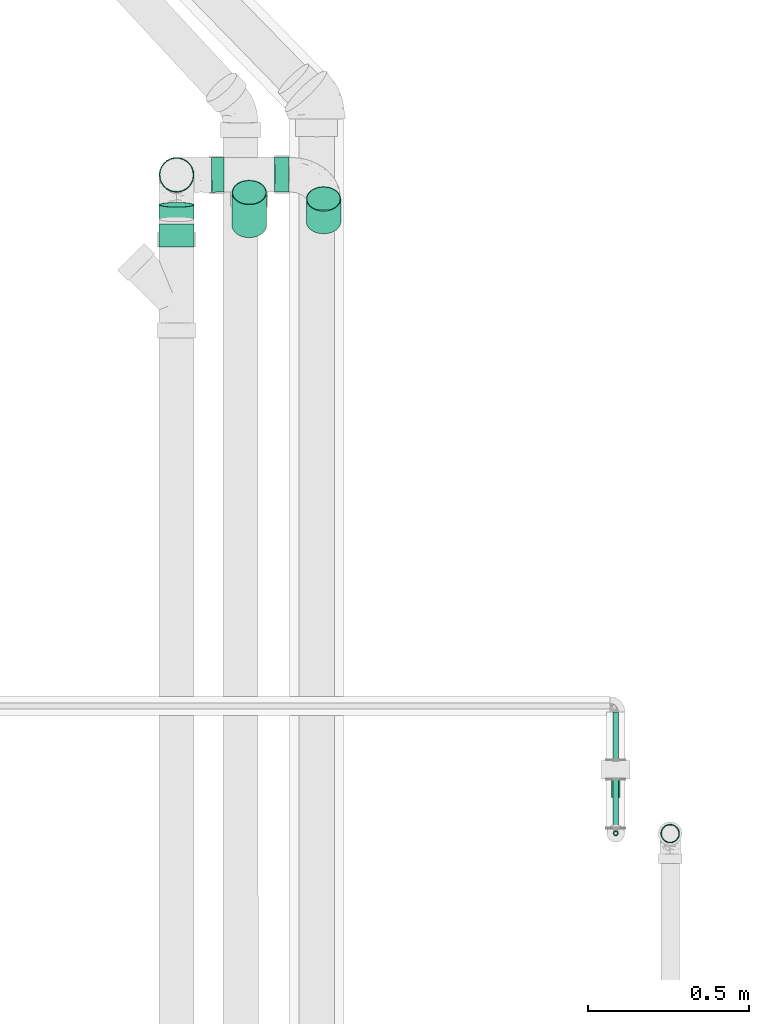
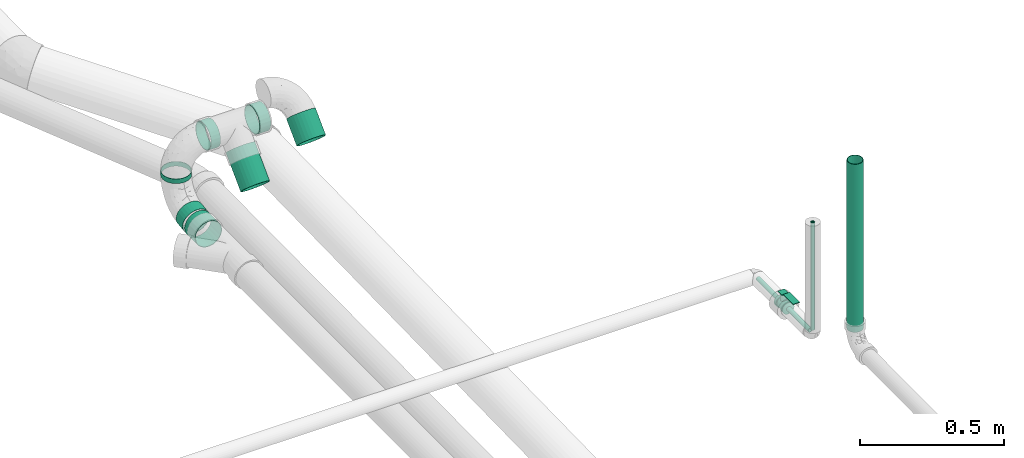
# One storey, part 35 of 78: 11 flow segments, 1 flow controller.
"""IFC2X3 building model written with IfcOpenShell, lengths in millimetres."""

import ifcopenshell
import ifcopenshell.guid

model = None  # the IFC model being written
_history = None  # IfcOwnerHistory: only IFC2X3 demands one
_inside = {}  # id of a spatial element -> (the spatial element, [elements in it])
_under = {}  # id of a project, library or spatial element -> (it, [spatial elements below it])
_declared = {}  # id of a project -> (the project, [libraries it declares])
_typed = {}  # id of a type object -> (the type object, [elements of that type])
_made_of = {}  # id of a material, layer set ... -> (it, [elements and type objects made of it])


def new_model(schema):
    """Start an empty IFC model of exactly this schema.

    Asked for "IFC4X3", IfcOpenShell would pick the latest addendum, in which some entities
    have other attributes; the version numbers below select the first issue.
    IFC2X3 requires an IfcOwnerHistory on every rooted entity: one is made here for all.
    """
    global model, _history
    if schema == "IFC4X3":
        model = ifcopenshell.file(schema_version=(4, 3, 0, 0))
    else:
        model = ifcopenshell.file(schema=schema)
    _inside.clear()
    _under.clear()
    _declared.clear()
    _typed.clear()
    _made_of.clear()
    _history = None
    if model.schema == "IFC2X3":
        org = make("IfcOrganization", Name="unknown")
        user = make(
            "IfcPersonAndOrganization",
            ThePerson=make("IfcPerson", FamilyName="unknown"),
            TheOrganization=org,
        )
        app = make(
            "IfcApplication",
            ApplicationDeveloper=org,
            Version="unknown",
            ApplicationFullName="unknown",
            ApplicationIdentifier="unknown",
        )
        _history = make(
            "IfcOwnerHistory",
            OwningUser=user,
            OwningApplication=app,
            ChangeAction="ADDED",
            CreationDate=0,
        )
    return model


def make(cls, **values):
    """One entity of the class cls with the attributes given. An attribute that is None is left unset."""
    return model.create_entity(
        cls, **{name: value for name, value in values.items() if value is not None}
    )


def entity(cls, *values):
    """Any entity or typed value of the class cls, its attributes in the order of the schema. None: left unset."""
    e = model.create_entity(cls)
    for i, value in enumerate(values):
        if value is not None:
            e[i] = value
    return e


def rooted(cls, **values):
    """An entity with a GlobalId (a new one), such as an element, a storey or a relation."""
    return make(cls, GlobalId=ifcopenshell.guid.new(), OwnerHistory=_history, **values)


def si_unit(unit_type, name, prefix=None):
    """IfcSIUnit, for example si_unit("LENGTHUNIT", "METRE", prefix="MILLI")."""
    return make("IfcSIUnit", UnitType=unit_type, Prefix=prefix, Name=name)


def converted_unit(unit_type, name, factor, base, dimensions=None, offset=None):
    """IfcConversionBasedUnit, such as the inch: factor (a typed value) times the base unit."""
    return make(
        "IfcConversionBasedUnit"
        if offset is None
        else "IfcConversionBasedUnitWithOffset",
        ConversionOffset=offset,
        Dimensions=None
        if dimensions is None
        else entity("IfcDimensionalExponents", *dimensions),
        UnitType=unit_type,
        Name=name,
        ConversionFactor=make(
            "IfcMeasureWithUnit", ValueComponent=factor, UnitComponent=base
        ),
    )


def derived_unit(unit_type, elements):
    """IfcDerivedUnit: a product of units, each with its exponent."""
    return make(
        "IfcDerivedUnit",
        Elements=[
            make("IfcDerivedUnitElement", Unit=unit, Exponent=power)
            for unit, power in elements
        ],
        UnitType=unit_type,
    )


def assignment(units):
    """IfcUnitAssignment: the units of a project."""
    return None if units is None else make("IfcUnitAssignment", Units=units)


def point(xyz):
    """IfcCartesianPoint."""
    return None if xyz is None else make("IfcCartesianPoint", Coordinates=xyz)


def direction(xyz):
    """IfcDirection."""
    return None if xyz is None else make("IfcDirection", DirectionRatios=xyz)


def frame(location, z_axis=None, x_axis=None):
    """IfcAxis2Placement3D, a coordinate frame: its origin and axes. An axis left out is left unset."""
    return make(
        "IfcAxis2Placement3D",
        Location=point(location),
        Axis=direction(z_axis),
        RefDirection=direction(x_axis),
    )


def frame_2d(location, x_axis=None):
    """IfcAxis2Placement2D, a coordinate frame in the plane: its origin and x axis."""
    return make(
        "IfcAxis2Placement2D", Location=point(location), RefDirection=direction(x_axis)
    )


def origin_with_axes():
    """The frame at (0, 0, 0) with the z axis (0, 0, 1) and the x axis (1, 0, 0) written out."""
    return frame((0.0, 0.0, 0.0), z_axis=(0.0, 0.0, 1.0), x_axis=(1.0, 0.0, 0.0))


def origin_2d_with_axis():
    """The frame at (0, 0) in the plane with the x axis (1, 0) written out."""
    return frame_2d((0.0, 0.0), x_axis=(1.0, 0.0))


def place(relative_to, where):
    """IfcLocalPlacement: puts the frame where relative to a parent placement (None: the world)."""
    return make(
        "IfcLocalPlacement", PlacementRelTo=relative_to, RelativePlacement=where
    )


def context(
    kind, dimensions, precision=None, world=None, true_north=None, identifier=None
):
    """IfcGeometricRepresentationContext, for example the 3D "Model" context."""
    return make(
        "IfcGeometricRepresentationContext",
        ContextIdentifier=identifier,
        ContextType=kind,
        CoordinateSpaceDimension=dimensions,
        Precision=precision,
        WorldCoordinateSystem=world,
        TrueNorth=true_north,
    )


def subcontext(parent, identifier, kind, view, scale=None):
    """IfcGeometricRepresentationSubContext, for example "Body" below "Model"."""
    return make(
        "IfcGeometricRepresentationSubContext",
        ContextIdentifier=identifier,
        ContextType=kind,
        ParentContext=parent,
        TargetScale=scale,
        TargetView=view,
    )


def project(units=None, contexts=None):
    """IfcProject with its units and contexts."""
    return rooted(
        "IfcProject",
        Name="project",
        RepresentationContexts=contexts,
        UnitsInContext=assignment(units),
    )


def spatial(cls, under=None, at=None, **own):
    """A site, building, storey or space (cls), placed at a placement, below another one or the project."""
    s = rooted(cls, ObjectPlacement=at, **own)
    if under is not None:
        _under.setdefault(under.id(), (under, []))[1].append(s)
    return s


def profile(cls, at=None, kind="AREA", **sizes):
    """A parametric profile (cls). Its sizes go by their IFC names, for example OverallWidth=200.0."""
    return make(cls, ProfileType=kind, Position=at, **sizes)


def hollow_circle(**sizes):
    """IfcCircleHollowProfileDef."""
    return profile("IfcCircleHollowProfileDef", **sizes)


def extrude(swept, where, along, depth):
    """IfcExtrudedAreaSolid: the profile swept, set in the frame where, extruded along a direction by depth."""
    return make(
        "IfcExtrudedAreaSolid",
        SweptArea=swept,
        Position=where,
        ExtrudedDirection=direction(along),
        Depth=depth,
    )


def faces_of(points, faces, orient=None, outer=None):
    """IfcFace entities. A face is a list of loops; a loop is a list of indices into points, from 0.

    orient and outer hold one flag for each loop. By default every Orientation is true, the
    first loop of a face is its IfcFaceOuterBound and the others are IfcFaceBound.
    """
    made = []
    for i, loops in enumerate(faces):
        bounds = []
        for j, loop in enumerate(loops):
            is_outer = j == 0 if outer is None else outer[i][j]
            bounds.append(
                make(
                    "IfcFaceOuterBound" if is_outer else "IfcFaceBound",
                    Bound=make("IfcPolyLoop", Polygon=[points[k] for k in loop]),
                    Orientation=True if orient is None else orient[i][j],
                )
            )
        made.append(make("IfcFace", Bounds=bounds))
    return made


def open_shell(faces, orient=None, outer=None):
    """The faces of one IfcOpenShell. surface_model builds it on its shared points."""
    return ("IfcOpenShell", faces, orient, outer)


def surface_model(cls, points, shells):
    """IfcFaceBasedSurfaceModel or IfcShellBasedSurfaceModel (cls): surfaces that need not close."""
    shared = [point(p) for p in points]
    made = [make(c, CfsFaces=faces_of(shared, fs, o, b)) for c, fs, o, b in shells]
    if cls == "IfcFaceBasedSurfaceModel":
        return make(cls, FbsmFaces=made)
    return make(cls, SbsmBoundary=made)


def shape(context_of_items, identifier, shape_type, items):
    """IfcShapeRepresentation: the items that make up one representation, for example the "Body"."""
    return make(
        "IfcShapeRepresentation",
        ContextOfItems=context_of_items,
        RepresentationIdentifier=identifier,
        RepresentationType=shape_type,
        Items=items,
    )


def source(mapping_origin, context_of_items, identifier, shape_type, items):
    """IfcRepresentationMap: a shape defined once, which mapped items show again and again."""
    return make(
        "IfcRepresentationMap",
        MappingOrigin=mapping_origin,
        MappedRepresentation=shape(context_of_items, identifier, shape_type, items),
    )


def transform(
    local_origin,
    x_axis=None,
    y_axis=None,
    z_axis=None,
    scale=None,
    scale2=None,
    scale3=None,
    uniform=True,
):
    """IfcCartesianTransformationOperator3D, or its non-uniform kind. x_axis, y_axis, z_axis: its Axis1, 2, 3."""
    if uniform:
        return make(
            "IfcCartesianTransformationOperator3D",
            Axis1=direction(x_axis),
            Axis2=direction(y_axis),
            LocalOrigin=point(local_origin),
            Scale=scale,
            Axis3=direction(z_axis),
        )
    return make(
        "IfcCartesianTransformationOperator3DnonUniform",
        Axis1=direction(x_axis),
        Axis2=direction(y_axis),
        LocalOrigin=point(local_origin),
        Scale=scale,
        Axis3=direction(z_axis),
        Scale2=scale2,
        Scale3=scale3,
    )


def mapped(mapping_source, mapping_target):
    """IfcMappedItem: shows the shape of a source again, moved by a transform."""
    return make(
        "IfcMappedItem", MappingSource=mapping_source, MappingTarget=mapping_target
    )


def made_of(thing, what):
    """Note that an element or type object is made of a material, layer set ...; save() writes the relation."""
    if what is not None:
        _made_of.setdefault(what.id(), (what, []))[1].append(thing)
    return thing


def type_object(cls, material=None, **own):
    """A type object (cls), such as IfcWallType, which elements share."""
    return made_of(rooted(cls, **own), material)


def element(
    cls,
    number,
    at=None,
    inside=None,
    cuts=None,
    type_object=None,
    material=None,
    context=None,
    identifier="Body",
    shape_type=None,
    held_by="IfcProductDefinitionShape",
    body=None,
    shapes=None,
    **own,
):
    """One element of the class cls, such as IfcWall. Its Tag is "e" and its number.

    at: its placement. inside: the storey or other place that contains it. cuts: it is an
    opening in that element (IfcRelVoidsElement). A single representation is given by context,
    identifier, shape_type and body (its items); several are given by shapes. held_by: the class
    of the entity that holds the representations. save() writes the other relations.
    """
    e = rooted(cls, Tag="e%d" % number, ObjectPlacement=at, **own)
    if body is not None:
        shapes = [shape(context, identifier, shape_type, body)]
    if shapes is not None:
        e.Representation = make(held_by, Representations=shapes)
    if inside is not None:
        _inside.setdefault(inside.id(), (inside, []))[1].append(e)
    if cuts is not None:
        rooted(
            "IfcRelVoidsElement", RelatingBuildingElement=cuts, RelatedOpeningElement=e
        )
    if type_object is not None:
        _typed.setdefault(type_object.id(), (type_object, []))[1].append(e)
    return made_of(e, material)


def aggregate(whole, parts):
    """IfcRelAggregates: a whole, such as a stair, and the parts it consists of."""
    return rooted("IfcRelAggregates", RelatingObject=whole, RelatedObjects=parts)


def save(model, path):
    """Write the relations noted so far, then the file.

    IfcRelAggregates (storeys below a building ...), IfcRelContainedInSpatialStructure (elements
    in a storey), IfcRelDefinesByType, IfcRelAssociatesMaterial and IfcRelDeclares: one each for
    every whole, place, type object, material and project.
    """
    for whole, parts in _under.values():
        aggregate(whole, parts)
    for where, things in _inside.values():
        rooted(
            "IfcRelContainedInSpatialStructure",
            RelatedElements=things,
            RelatingStructure=where,
        )
    for kind, things in _typed.values():
        rooted("IfcRelDefinesByType", RelatedObjects=things, RelatingType=kind)
    for what, things in _made_of.values():
        rooted("IfcRelAssociatesMaterial", RelatedObjects=things, RelatingMaterial=what)
    for by, libraries in _declared.values():
        rooted("IfcRelDeclares", RelatingContext=by, RelatedDefinitions=libraries)
    model.write(path)


model = new_model("IFC2X3")

# Units and contexts
model_context = context("Model", 3, precision=0.01, world=frame((0.0, 4.29681676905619e-09, 0.0)), true_north=direction((4.01073788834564e-13, 1.0)))
plan_context = context("Plan", 3, precision=0.01, world=frame((0.0, 4.29681676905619e-09, 0.0)), true_north=direction((4.01073788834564e-13, 1.0)))
body_context = subcontext(model_context, "Body", "Model", "MODEL_VIEW")
ifc_project = project(units=[converted_unit("PLANEANGLEUNIT", "DEGREE", entity("IfcPositiveLengthMeasure", 0.0174532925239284), si_unit("PLANEANGLEUNIT", "RADIAN"), dimensions=[0, 0, 0, 0, 0, 0, 0]), si_unit("AREAUNIT", "SQUARE_METRE"), si_unit("LENGTHUNIT", "METRE", prefix="MILLI"), si_unit("MASSUNIT", "GRAM", prefix="KILO"), si_unit("POWERUNIT", "WATT"), si_unit("PRESSUREUNIT", "PASCAL"), si_unit("FORCEUNIT", "NEWTON", prefix="KILO"), si_unit("ELECTRICVOLTAGEUNIT", "VOLT"), si_unit("ELECTRICCURRENTUNIT", "AMPERE"), si_unit("THERMODYNAMICTEMPERATUREUNIT", "DEGREE_CELSIUS"), si_unit("TIMEUNIT", "SECOND"), si_unit("VOLUMEUNIT", "CUBIC_METRE"), derived_unit("LINEARVELOCITYUNIT", [(si_unit("LENGTHUNIT", "METRE"), 1), (si_unit("TIMEUNIT", "SECOND"), -1)]), derived_unit("VOLUMETRICFLOWRATEUNIT", [(si_unit("VOLUMEUNIT", "CUBIC_METRE"), 1), (si_unit("TIMEUNIT", "SECOND"), -1)]), derived_unit("THERMALTRANSMITTANCEUNIT", [(si_unit("POWERUNIT", "WATT"), 1), (si_unit("THERMODYNAMICTEMPERATUREUNIT", "KELVIN"), -1), (si_unit("AREAUNIT", "SQUARE_METRE"), -1)]), derived_unit("SOUNDPRESSUREUNIT", [(si_unit("PRESSUREUNIT", "PASCAL"), 1)])], contexts=[model_context, plan_context])

# Site, building, storey
site_placement = place(None, frame((0.0, -4.29681676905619e-09, 0.0), z_axis=(0.0, 0.0, 1.0), x_axis=(1.0, 0.0, 0.0)))
site = spatial("IfcSite", under=ifc_project, at=site_placement, Name="ENGM", CompositionType="ELEMENT")
building_placement = place(site_placement, frame((0.0, 4.29681676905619e-09, 0.0), z_axis=(0.0, 0.0, 1.0), x_axis=(1.0, 0.0, 0.0)))
building = spatial("IfcBuilding", under=site, at=building_placement, Name="TH", CompositionType="ELEMENT")
storey_placement = place(building_placement, frame((0.0, 0.0, 205200.0), z_axis=(0.0, 0.0, 1.0), x_axis=(1.0, 0.0, 0.0)))
storey = spatial("IfcBuildingStorey", under=building, at=storey_placement, Name="Nivå D + 1,2 m", CompositionType="ELEMENT", Elevation=205200.0)

# Flow controller
valve_type = type_object("IfcValveType", Name="AT3600-20", PredefinedType="NOTDEFINED")
shared_shape_1 = source(origin_with_axes(), body_context, "Body", "SurfaceModel", [
    surface_model("IfcShellBasedSurfaceModel", [(-18.552, 13.0, 50.0), (-18.552, -15.0, 50.0), (9.448, -15.0, 50.0), (9.448, 13.0, 50.0), (9.448, 13.0, 48.0), (9.448, -15.0, 48.0), (-18.552, -15.0, 48.0), (-18.552, 13.0, 48.0), (15.8, -19.27022, -5.16344), (-17.0, -19.95, 0.0), (-17.0, -19.27022, -5.16344), (15.8, -17.27721, -9.975), (-17.0, -17.27721, -9.975), (15.8, -9.975, -17.27721), (-17.0, -9.975, -17.27721), (-17.0, -5.16344, -19.27022), (15.8, -5.16344, -19.27022), (-17.0, 0.0, -19.95), (15.8, -19.95, 0.0), (-17.0, -14.10678, -14.10678), (15.8, -14.10678, -14.10678), (15.8, 0.0, -19.95), (15.8, 5.16344, -19.27022), (-17.0, 5.16344, -19.27022), (-17.0, 9.975, -17.27721), (-17.0, 14.10678, -14.10678), (15.8, 9.975, -17.27721), (15.8, 17.27721, -9.975), (-17.0, 17.27721, -9.975), (-17.0, 19.27022, -5.16344), (15.8, 14.10678, -14.10678), (15.8, 19.27022, -5.16344), (-17.0, 19.95, 0.0), (15.8, 19.95, 0.0), (-17.0, 19.27022, 5.16344), (15.8, 19.27022, 5.16344), (-17.0, 17.27721, 9.975), (15.8, 17.27721, 9.975), (-17.0, 14.10678, 14.10678), (15.8, 14.10678, 14.10678), (-17.0, 9.975, 17.27721), (15.8, 9.975, 17.27721), (-17.0, 5.16344, 19.27022), (15.8, 5.16344, 19.27022), (15.8, 0.0, 19.95), (-17.0, 0.0, 19.95), (15.8, -5.16344, 19.27022), (-17.0, -5.16344, 19.27022), (-17.0, -9.975, 17.27721), (-17.0, -14.10678, 14.10678), (15.8, -9.975, 17.27721), (15.8, -17.27721, 9.975), (-17.0, -17.27721, 9.975), (-17.0, -19.27022, 5.16344), (15.8, -14.10678, 14.10678), (15.8, -19.27022, 5.16344), (15.8, -11.97, 20.73265), (15.8, 0.0, 23.94), (15.8, 6.19613, 23.12426), (15.8, 11.97, 20.73265), (15.8, -20.73265, 11.97), (15.8, 20.73265, 11.97), (15.8, 16.92814, 16.92814), (15.8, 23.12426, 6.19613), (15.8, -16.92814, 16.92814), (15.8, -6.19613, 23.12426), (15.8, -23.94, 0.0), (15.8, -23.12426, 6.19613), (15.8, 23.94, 0.0), (15.8, -20.73265, -11.97), (15.8, 23.12426, -6.19613), (15.8, 16.92814, -16.92814), (15.8, 20.73265, -11.97), (15.8, 11.97, -20.73265), (15.8, 6.19613, -23.12426), (15.8, -11.97, -20.73265), (15.8, -16.92814, -16.92814), (15.8, -23.12426, -6.19613), (15.8, 0.0, -23.94), (15.8, -6.19613, -23.12426), (29.0, 6.19613, -23.12426), (29.0, -11.97, -20.73265), (29.0, 0.0, -23.94), (29.0, 16.92814, -16.92814), (29.0, 11.97, -20.73265), (29.0, 20.73265, -11.97), (29.0, 23.12426, -6.19613), (29.0, -20.73265, -11.97), (29.0, -16.92814, -16.92814), (29.0, -6.19613, -23.12426), (29.0, -23.94, 0.0), (29.0, -23.12426, -6.19613), (29.0, 23.94, 0.0), (29.0, 23.12426, 6.19613), (29.0, 20.73265, 11.97), (29.0, 11.97, 20.73265), (29.0, -20.73265, 11.97), (29.0, 16.92814, 16.92814), (29.0, 6.19613, 23.12426), (29.0, -11.97, 20.73265), (29.0, -16.92814, 16.92814), (29.0, -23.12426, 6.19613), (29.0, 0.0, 23.94), (29.0, -6.19613, 23.12426), (-17.0, 11.97, -20.73265), (-17.0, -6.19613, 23.12426), (-17.0, 6.19613, -23.12426), (-17.0, 16.92814, -16.92814), (-17.0, 6.19613, 23.12426), (-17.0, 20.73265, 11.97), (-17.0, 20.73265, -11.97), (-17.0, 23.12426, -6.19613), (-17.0, 0.0, -23.94), (-17.0, -6.19613, -23.12426), (-17.0, -11.97, -20.73265), (-17.0, -20.73265, -11.97), (-17.0, -20.73265, 11.97), (-17.0, -23.12426, -6.19613), (-17.0, -16.92814, 16.92814), (-17.0, -16.92814, -16.92814), (-17.0, 23.94, 0.0), (-17.0, 23.12426, 6.19613), (-17.0, 16.92814, 16.92814), (-17.0, 11.97, 20.73265), (-17.0, 0.0, 23.94), (-17.0, -23.12426, 6.19613), (-17.0, -23.94, 0.0), (-17.0, -11.97, 20.73265), (-29.0, 6.19613, 23.12426), (-29.0, -6.19613, -23.12426), (-29.0, 0.0, 23.94), (-29.0, 16.92814, 16.92814), (-29.0, 16.92814, -16.92814), (-29.0, 11.97, 20.73265), (-29.0, 20.73265, -11.97), (-29.0, 20.73265, 11.97), (-29.0, 23.12426, 6.19613), (-29.0, 11.97, -20.73265), (-29.0, -16.92814, 16.92814), (-29.0, -11.97, 20.73265), (-29.0, -16.92814, -16.92814), (-29.0, -6.19613, 23.12426), (-29.0, -20.73265, 11.97), (-29.0, -23.12426, 6.19613), (-29.0, -20.73265, -11.97), (-29.0, -11.97, -20.73265), (-29.0, 23.94, 0.0), (-29.0, 23.12426, -6.19613), (-29.0, 6.19613, -23.12426), (-29.0, 0.0, -23.94), (-29.0, -23.12426, -6.19613), (-29.0, -23.94, 0.0), (-3.552, -11.48, 48.0), (-0.58076, -11.08883, 48.0), (2.188, -9.94197, 48.0), (-9.292, -9.94197, 48.0), (-14.64083, -2.97124, 48.0), (6.38997, -5.74, 48.0), (4.56559, -8.11759, 48.0), (-11.66959, 8.11759, 48.0), (-11.66959, -8.11759, 48.0), (-6.52324, -11.08883, 48.0), (-13.49397, -5.74, 48.0), (-14.64083, 2.97124, 48.0), (-15.032, 0.0, 48.0), (7.53683, -2.97124, 48.0), (7.53683, 2.97124, 48.0), (4.56559, 8.11759, 48.0), (6.38997, 5.74, 48.0), (2.188, 9.94197, 48.0), (-0.58076, 11.08883, 48.0), (-13.49397, 5.74, 48.0), (-9.292, 9.94197, 48.0), (-3.552, 11.48, 48.0), (-6.52324, 11.08883, 48.0), (7.928, 0.0, 48.0), (-0.58076, 11.08883, 0.0), (2.188, 9.94197, 0.0), (4.56559, 8.11759, 0.0), (7.53683, 2.97124, 0.0), (7.928, 0.0, 0.0), (6.38997, 5.74, 0.0), (-11.66959, 8.11759, 0.0), (-3.552, 11.48, 0.0), (-9.292, 9.94197, 0.0), (-6.52324, 11.08883, 0.0), (-14.64083, 2.97124, 0.0), (-13.49397, 5.74, 0.0), (7.53683, -2.97124, 0.0), (6.38997, -5.74, 0.0), (-15.032, 0.0, 0.0), (2.188, -9.94197, 0.0), (4.56559, -8.11759, 0.0), (-0.58076, -11.08883, 0.0), (-3.552, -11.48, 0.0), (-14.64083, -2.97124, 0.0), (-11.66959, -8.11759, 0.0), (-13.49397, -5.74, 0.0), (-9.292, -9.94197, 0.0), (-6.52324, -11.08883, 0.0), (16.448, -13.0, 55.0), (16.448, -13.0, 57.0), (9.448, -13.0, 50.0), (9.448, -13.0, 48.0), (16.448, 13.0, 55.0), (16.448, 13.0, 57.0), (86.448, -14.0, 57.0), (16.448, -14.0, 57.0), (16.448, -14.0, 55.0), (86.448, -14.0, 55.0), (86.448, 13.0, 55.0), (86.448, 13.0, 57.0)], [open_shell([[[0, 1, 2]], [[2, 3, 0]], [[4, 5, 6]], [[6, 7, 4]], [[2, 1, 6]], [[6, 5, 2]], [[3, 2, 5]], [[5, 4, 3]], [[0, 3, 4]], [[4, 7, 0]], [[1, 0, 7]], [[7, 6, 1]], [[8, 9, 10]], [[11, 10, 12]], [[13, 14, 15]], [[16, 15, 17]], [[10, 11, 8]], [[8, 18, 9]], [[19, 20, 11]], [[20, 19, 13]], [[13, 19, 14]], [[15, 16, 13]], [[19, 11, 12]], [[17, 21, 16]], [[22, 23, 24]], [[25, 26, 24]], [[27, 28, 29]], [[25, 28, 30]], [[31, 29, 32]], [[23, 22, 21]], [[24, 26, 22]], [[25, 30, 26]], [[28, 27, 30]], [[31, 27, 29]], [[32, 33, 31]], [[23, 21, 17]], [[34, 35, 32]], [[36, 37, 34]], [[36, 38, 39]], [[38, 40, 41]], [[34, 37, 35]], [[35, 33, 32]], [[42, 43, 41]], [[44, 43, 42]], [[39, 38, 41]], [[39, 37, 36]], [[40, 42, 41]], [[42, 45, 44]], [[46, 47, 48]], [[49, 50, 48]], [[51, 52, 53]], [[49, 52, 54]], [[55, 53, 9]], [[47, 46, 44]], [[48, 50, 46]], [[49, 54, 50]], [[52, 51, 54]], [[55, 51, 53]], [[9, 18, 55]], [[47, 44, 45]], [[56, 57, 58]], [[59, 56, 58]], [[60, 59, 61]], [[61, 59, 62]], [[60, 61, 63]], [[56, 60, 64]], [[56, 65, 57]], [[60, 66, 67]], [[60, 56, 59]], [[66, 60, 63]], [[63, 68, 66]], [[69, 66, 70]], [[71, 70, 72]], [[71, 73, 74]], [[71, 74, 70]], [[69, 70, 74]], [[69, 75, 76]], [[77, 66, 69]], [[75, 78, 79]], [[75, 69, 74]], [[78, 75, 74]], [[66, 68, 70]], [[80, 81, 82]], [[83, 80, 84]], [[83, 85, 86]], [[81, 80, 83]], [[81, 83, 86]], [[81, 87, 88]], [[81, 89, 82]], [[87, 90, 91]], [[92, 87, 81]], [[92, 90, 87]], [[92, 81, 86]], [[92, 93, 94]], [[92, 94, 95]], [[92, 95, 96]], [[95, 94, 97]], [[96, 95, 98]], [[96, 99, 100]], [[101, 90, 96]], [[99, 102, 103]], [[99, 96, 98]], [[102, 99, 98]], [[96, 90, 92]], [[63, 93, 68]], [[61, 94, 63]], [[95, 62, 59]], [[61, 62, 97]], [[98, 59, 58]], [[63, 94, 93]], [[93, 92, 68]], [[98, 95, 59]], [[97, 62, 95]], [[97, 94, 61]], [[102, 98, 58]], [[58, 57, 102]], [[65, 103, 57]], [[56, 99, 65]], [[96, 64, 60]], [[56, 64, 100]], [[101, 60, 67]], [[56, 100, 99]], [[99, 103, 65]], [[90, 101, 67]], [[96, 60, 101]], [[96, 100, 64]], [[66, 90, 67]], [[57, 103, 102]], [[77, 91, 66]], [[69, 87, 77]], [[81, 76, 75]], [[69, 76, 88]], [[89, 75, 79]], [[77, 87, 91]], [[91, 90, 66]], [[89, 81, 75]], [[88, 76, 81]], [[88, 87, 69]], [[82, 89, 79]], [[79, 78, 82]], [[74, 80, 78]], [[73, 84, 74]], [[85, 71, 72]], [[73, 71, 83]], [[86, 72, 70]], [[73, 83, 84]], [[84, 80, 74]], [[92, 86, 70]], [[85, 72, 86]], [[85, 83, 71]], [[68, 92, 70]], [[78, 80, 82]], [[104, 105, 106]], [[107, 108, 104]], [[109, 110, 111]], [[106, 105, 112]], [[110, 109, 107]], [[112, 105, 113]], [[113, 105, 114]], [[115, 116, 117]], [[118, 119, 114]], [[119, 116, 115]], [[120, 121, 111]], [[109, 122, 107]], [[122, 123, 107]], [[108, 124, 104]], [[107, 123, 108]], [[124, 105, 104]], [[117, 116, 125]], [[126, 117, 125]], [[119, 118, 116]], [[114, 127, 118]], [[114, 105, 127]], [[109, 111, 121]], [[128, 129, 130]], [[131, 132, 133]], [[134, 135, 136]], [[137, 128, 133]], [[134, 131, 135]], [[138, 139, 140]], [[129, 141, 130]], [[138, 140, 142]], [[143, 142, 144]], [[145, 139, 141]], [[136, 146, 147]], [[132, 131, 134]], [[133, 132, 137]], [[128, 148, 149]], [[128, 137, 148]], [[129, 128, 149]], [[143, 144, 150]], [[150, 151, 143]], [[142, 140, 144]], [[145, 140, 139]], [[129, 145, 141]], [[147, 134, 136]], [[150, 117, 151]], [[144, 115, 150]], [[114, 140, 145]], [[144, 140, 119]], [[113, 145, 129]], [[150, 115, 117]], [[117, 126, 151]], [[113, 114, 145]], [[119, 140, 114]], [[119, 115, 144]], [[112, 113, 129]], [[129, 149, 112]], [[148, 106, 149]], [[137, 104, 148]], [[110, 132, 134]], [[137, 132, 107]], [[111, 134, 147]], [[137, 107, 104]], [[104, 106, 148]], [[120, 111, 147]], [[110, 134, 111]], [[110, 107, 132]], [[146, 120, 147]], [[149, 106, 112]], [[136, 121, 146]], [[135, 109, 136]], [[123, 131, 133]], [[135, 131, 122]], [[108, 133, 128]], [[136, 109, 121]], [[121, 120, 146]], [[108, 123, 133]], [[122, 131, 123]], [[122, 109, 135]], [[124, 108, 128]], [[128, 130, 124]], [[141, 105, 130]], [[139, 127, 141]], [[116, 138, 142]], [[139, 138, 118]], [[125, 142, 143]], [[139, 118, 127]], [[127, 105, 141]], [[126, 125, 143]], [[116, 142, 125]], [[116, 118, 138]], [[151, 126, 143]], [[130, 105, 124]], [[26, 21, 22]], [[27, 26, 30]], [[26, 31, 13]], [[31, 26, 27]], [[33, 13, 31]], [[21, 13, 16]], [[21, 26, 13]], [[20, 8, 11]], [[8, 20, 13]], [[33, 8, 13]], [[33, 35, 8]], [[35, 37, 39]], [[35, 39, 41]], [[35, 43, 51]], [[43, 35, 41]], [[46, 43, 44]], [[55, 18, 8]], [[35, 51, 55]], [[51, 50, 54]], [[50, 51, 46]], [[43, 46, 51]], [[55, 8, 35]], [[42, 52, 45]], [[38, 42, 40]], [[38, 36, 34]], [[38, 34, 42]], [[52, 42, 34]], [[48, 52, 49]], [[52, 48, 47]], [[34, 53, 52]], [[52, 47, 45]], [[9, 53, 34]], [[34, 32, 9]], [[29, 14, 32]], [[24, 29, 28]], [[14, 29, 24]], [[24, 28, 25]], [[17, 24, 23]], [[10, 19, 12]], [[19, 10, 14]], [[14, 17, 15]], [[14, 10, 32]], [[24, 17, 14]], [[32, 10, 9]], [[152, 153, 154]], [[155, 152, 154]], [[156, 154, 157]], [[157, 154, 158]], [[157, 159, 156]], [[155, 156, 160]], [[155, 161, 152]], [[160, 156, 162]], [[154, 156, 155]], [[156, 163, 164]], [[157, 165, 166]], [[159, 157, 166]], [[167, 166, 168]], [[167, 169, 170]], [[166, 167, 159]], [[170, 159, 167]], [[163, 159, 171]], [[156, 159, 163]], [[172, 173, 174]], [[172, 159, 170]], [[173, 172, 170]], [[165, 175, 166]], [[176, 177, 178]], [[176, 178, 179]], [[179, 180, 176]], [[179, 178, 181]], [[176, 180, 182]], [[183, 184, 185]], [[183, 176, 184]], [[182, 186, 187]], [[184, 176, 182]], [[180, 186, 182]], [[180, 188, 186]], [[189, 190, 188]], [[191, 189, 192]], [[191, 193, 194]], [[189, 191, 195]], [[194, 195, 191]], [[195, 196, 197]], [[195, 190, 189]], [[195, 198, 196]], [[195, 194, 198]], [[199, 198, 194]], [[188, 190, 186]], [[195, 156, 190]], [[197, 162, 195]], [[155, 196, 198]], [[197, 196, 160]], [[161, 198, 199]], [[195, 162, 156]], [[156, 164, 190]], [[161, 155, 198]], [[160, 196, 155]], [[160, 162, 197]], [[152, 161, 199]], [[199, 194, 152]], [[193, 153, 194]], [[191, 154, 193]], [[157, 192, 189]], [[191, 192, 158]], [[165, 189, 188]], [[191, 158, 154]], [[154, 153, 193]], [[175, 165, 188]], [[157, 189, 165]], [[157, 158, 192]], [[180, 175, 188]], [[194, 153, 152]], [[179, 166, 180]], [[181, 168, 179]], [[169, 178, 177]], [[181, 178, 167]], [[170, 177, 176]], [[179, 168, 166]], [[166, 175, 180]], [[170, 169, 177]], [[167, 178, 169]], [[167, 168, 181]], [[173, 170, 176]], [[176, 183, 173]], [[185, 174, 183]], [[184, 172, 185]], [[171, 182, 187]], [[184, 182, 159]], [[163, 187, 186]], [[184, 159, 172]], [[172, 174, 185]], [[164, 163, 186]], [[171, 187, 163]], [[171, 159, 182]], [[190, 164, 186]], [[183, 174, 173]], [[200, 201, 202]], [[202, 203, 200]], [[4, 3, 204]], [[205, 204, 3]], [[205, 3, 202]], [[202, 201, 205]], [[204, 205, 200]], [[201, 200, 205]], [[4, 204, 200]], [[200, 203, 4]], [[3, 4, 202]], [[203, 202, 4]], [[206, 207, 208]], [[208, 209, 206]], [[210, 204, 205]], [[205, 211, 210]], [[205, 204, 208]], [[208, 207, 205]], [[211, 205, 207]], [[207, 206, 211]], [[210, 211, 206]], [[206, 209, 210]], [[204, 210, 209]], [[209, 208, 204]]])]),
])
flow_controller_placement = place(storey_placement, frame((904834.075, 478077.26399, 4410.0), z_axis=(0.0, 0.0, 1.0), x_axis=(0.0, -1.0, 0.0)))
element("IfcFlowController", 1, at=flow_controller_placement, inside=storey, type_object=valve_type, Name="AT3600-20", context=body_context, shape_type="MappedRepresentation", body=[
    mapped(shared_shape_1, transform((0.0, 0.0, 0.0), scale=1.0)),
])

# Flow segments
pipe_segment_type_1 = type_object("IfcPipeSegmentType", Name="SSt", PredefinedType="RIGIDSEGMENT")
shared_shape_2 = source(origin_with_axes(), body_context, "Body", "SweptSolid", [
    extrude(hollow_circle(Radius=54.0, WallThickness=2.0, at=origin_2d_with_axis()), frame((0.0, 0.0, 0.0), z_axis=(1.0, 0.0, 0.0), x_axis=(0.0, 1.0, 0.0)), (0.0, 0.0, 1.0), 19.5),
])
flow_segment_1_placement = place(storey_placement, frame((903466.63164, 479929.11805, 4314.50055), z_axis=(0.015647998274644, 0.999875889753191, 0.00182899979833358), x_axis=(-2.89964002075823e-05, -0.00182876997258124, 0.999998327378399)))
element("IfcFlowSegment", 2, at=flow_segment_1_placement, inside=storey, type_object=pipe_segment_type_1, Name="SSt", context=body_context, shape_type="MappedRepresentation", body=[
    mapped(shared_shape_2, transform((0.0, 0.0, 0.0), scale=1.0)),
])
shared_shape_3 = source(origin_with_axes(), body_context, "Body", "SweptSolid", [
    extrude(hollow_circle(Radius=54.0, WallThickness=2.0, at=origin_2d_with_axis()), frame((0.0, 0.0, 0.0), z_axis=(1.0, 0.0, 0.0), x_axis=(0.0, 1.0, 0.0)), (0.0, 0.0, 1.0), 44.4),
])
flow_segment_2_placement = place(storey_placement, frame((903771.89424, 479930.40841, 4440.60957), z_axis=(0.00999999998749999, 0.0, 0.999949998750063), x_axis=(0.999949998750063, 0.0, -0.00999999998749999)))
element("IfcFlowSegment", 3, at=flow_segment_2_placement, inside=storey, type_object=pipe_segment_type_1, Name="SSt", context=body_context, shape_type="MappedRepresentation", body=[
    mapped(shared_shape_3, transform((0.0, 0.0, 0.0), scale=1.0)),
])
shared_shape_4 = source(origin_with_axes(), body_context, "Body", "SweptSolid", [
    extrude(hollow_circle(Radius=54.0, WallThickness=2.0, at=origin_2d_with_axis()), frame((0.0, 0.0, 0.0), z_axis=(1.0, 0.0, 0.0), x_axis=(0.0, 1.0, 0.0)), (0.0, 0.0, 1.0), 100.0),
])
flow_segment_3_placement = place(storey_placement, frame((903924.24198, 479854.5837, 4458.25860999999), z_axis=(-0.999974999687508, -0.0049999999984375, 0.0049999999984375), x_axis=(0.0, -0.707106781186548, -0.707106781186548)))
element("IfcFlowSegment", 4, at=flow_segment_3_placement, inside=storey, type_object=pipe_segment_type_1, Name="SSt", context=body_context, shape_type="MappedRepresentation", body=[
    mapped(shared_shape_4, transform((0.0, 0.0, 0.0), scale=1.0)),
])
shared_shape_5 = source(origin_with_axes(), body_context, "Body", "SweptSolid", [
    extrude(hollow_circle(Radius=54.0, WallThickness=2.0, at=origin_2d_with_axis()), frame((0.0, 0.0, 0.0), z_axis=(1.0, 0.0, 0.0), x_axis=(0.0, 1.0, 0.0)), (0.0, 0.0, 1.0), 145.5),
])
flow_segment_4_placement = place(storey_placement, frame((903692.89029, 479874.54593, 4384.74713), z_axis=(-0.999950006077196, -0.00709700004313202, 0.00704400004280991), x_axis=(-1.74024366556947e-07, -0.70443926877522, -0.70976426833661)))
element("IfcFlowSegment", 5, at=flow_segment_4_placement, inside=storey, type_object=pipe_segment_type_1, Name="SSt", context=body_context, shape_type="MappedRepresentation", body=[
    mapped(shared_shape_5, transform((0.0, 0.0, 0.0), scale=1.0)),
])
shared_shape_6 = source(origin_with_axes(), body_context, "Body", "SweptSolid", [
    extrude(hollow_circle(Radius=54.0, WallThickness=2.0, at=origin_2d_with_axis()), frame((0.0, 0.0, 0.0), z_axis=(1.0, 0.0, 0.0), x_axis=(0.0, 1.0, 0.0)), (0.0, 0.0, 1.0), 38.2),
])
flow_segment_5_placement = place(storey_placement, frame((903575.71103, 479929.02118, 4441.99679999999), z_axis=(0.00707499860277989, -0.0005819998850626, 0.999974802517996), x_axis=(0.999950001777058, 0.00707099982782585, -0.0070707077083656)))
element("IfcFlowSegment", 6, at=flow_segment_5_placement, inside=storey, type_object=pipe_segment_type_1, Name="SSt", context=body_context, shape_type="MappedRepresentation", body=[
    mapped(shared_shape_6, transform((0.0, 0.0, 0.0), scale=1.0)),
])
pipe_segment_type_2 = type_object("IfcPipeSegmentType", Name="MA", PredefinedType="RIGIDSEGMENT")
shared_shape_7 = source(origin_with_axes(), body_context, "Body", "SweptSolid", [
    extrude(hollow_circle(Radius=29.0, WallThickness=2.0, at=origin_2d_with_axis()), frame((0.0, 0.0, 0.0), z_axis=(1.0, 0.0, 0.0), x_axis=(0.0, 1.0, 0.0)), (0.0, 0.0, 1.0), 712.3),
])
flow_segment_6_placement = place(storey_placement, frame((905003.40552, 477878.23626, 5084.43981000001), z_axis=(6.20385459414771e-25, 0.9999999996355, -2.69999999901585e-05), x_axis=(-4.4999999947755e-05, -2.6999999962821e-05, -0.999999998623)))
element("IfcFlowSegment", 7, at=flow_segment_6_placement, inside=storey, type_object=pipe_segment_type_2, Name="MA", context=body_context, shape_type="MappedRepresentation", body=[
    mapped(shared_shape_7, transform((0.0, 0.0, 0.0), scale=1.0)),
])
pipe_segment_type_3 = type_object("IfcPipeSegmentType", Name="Kobberrør", PredefinedType="RIGIDSEGMENT")
shared_shape_8 = source(origin_with_axes(), body_context, "Body", "SweptSolid", [
    extrude(hollow_circle(Radius=7.5, WallThickness=2.0, at=origin_2d_with_axis()), frame((0.0, 0.0, 0.0), z_axis=(1.0, 0.0, 0.0), x_axis=(0.0, 1.0, 0.0)), (0.0, 0.0, 1.0), 455.0),
])
flow_segment_7_placement = place(storey_placement, frame((904834.075, 477879.03687, 4880.0), z_axis=(0.0, 1.0, 0.0), x_axis=(0.0, 0.0, -1.0)))
element("IfcFlowSegment", 8, at=flow_segment_7_placement, inside=storey, type_object=pipe_segment_type_3, Name="Kobberrør", context=body_context, shape_type="MappedRepresentation", body=[
    mapped(shared_shape_8, transform((0.0, 0.0, 0.0), scale=1.0)),
])
shared_shape_9 = source(origin_with_axes(), body_context, "Body", "SweptSolid", [
    extrude(hollow_circle(Radius=54.0, WallThickness=2.0, at=origin_2d_with_axis()), frame((0.0, 0.0, 0.0), z_axis=(1.0, 0.0, 0.0), x_axis=(0.0, 1.0, 0.0)), (0.0, 0.0, 1.0), 45.5),
])
flow_segment_8_placement = place(storey_placement, frame((903466.63216, 479791.05209, 4201.19975), z_axis=(-3.44107134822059e-22, -0.13877905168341, 0.990323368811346), x_axis=(1.00000037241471e-06, 0.990323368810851, 0.138779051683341)))
element("IfcFlowSegment", 9, at=flow_segment_8_placement, inside=storey, type_object=pipe_segment_type_1, Name="SSt", context=body_context, shape_type="MappedRepresentation", body=[
    mapped(shared_shape_9, transform((0.0, 0.0, 0.0), scale=1.0)),
])
shared_shape_10 = source(origin_with_axes(), body_context, "Body", "SweptSolid", [
    extrude(hollow_circle(Radius=54.0, WallThickness=2.0, at=origin_2d_with_axis()), frame((0.0, 0.0, 0.0), z_axis=(1.0, 0.0, 0.0), x_axis=(0.0, 1.0, 0.0)), (0.0, 0.0, 1.0), 72.1),
])
flow_segment_9_placement = place(storey_placement, frame((903466.63217, 479704.46423, 4199.79532999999), z_axis=(0.0, -0.00499999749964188, 0.999987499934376), x_axis=(0.0, 0.999987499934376, 0.00499999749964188)))
element("IfcFlowSegment", 10, at=flow_segment_9_placement, inside=storey, type_object=pipe_segment_type_1, Name="SSt", context=body_context, shape_type="MappedRepresentation", body=[
    mapped(shared_shape_10, transform((0.0, 0.0, 0.0), scale=1.0)),
])
shared_shape_11 = source(origin_with_axes(), body_context, "Body", "SweptSolid", [
    extrude(hollow_circle(Radius=9.0, WallThickness=2.0, at=origin_2d_with_axis()), frame((0.0, 0.0, 0.0), z_axis=(1.0, 0.0, 0.0), x_axis=(0.0, 1.0, 0.0)), (0.0, 0.0, 1.0), 149.2),
])
for number, where, z_axis, x_axis in (
    (11, (904834.075, 478108.26399, 4410.0), (0.0, 0.0, 1.0), (0.0, 1.0, 0.0)),
    (12, (904834.075, 477897.03687, 4410.0), (0.0, 0.0, 1.0), (0.0, 1.0, 0.0)),
):
    element("IfcFlowSegment", number, at=place(storey_placement, frame(where, z_axis=z_axis, x_axis=x_axis)), inside=storey, type_object=pipe_segment_type_3, Name="Kobberrør", context=body_context, shape_type="MappedRepresentation", body=[
        mapped(shared_shape_11, transform((0.0, 0.0, 0.0), scale=1.0)),
    ])

save(model, "model.ifc")
